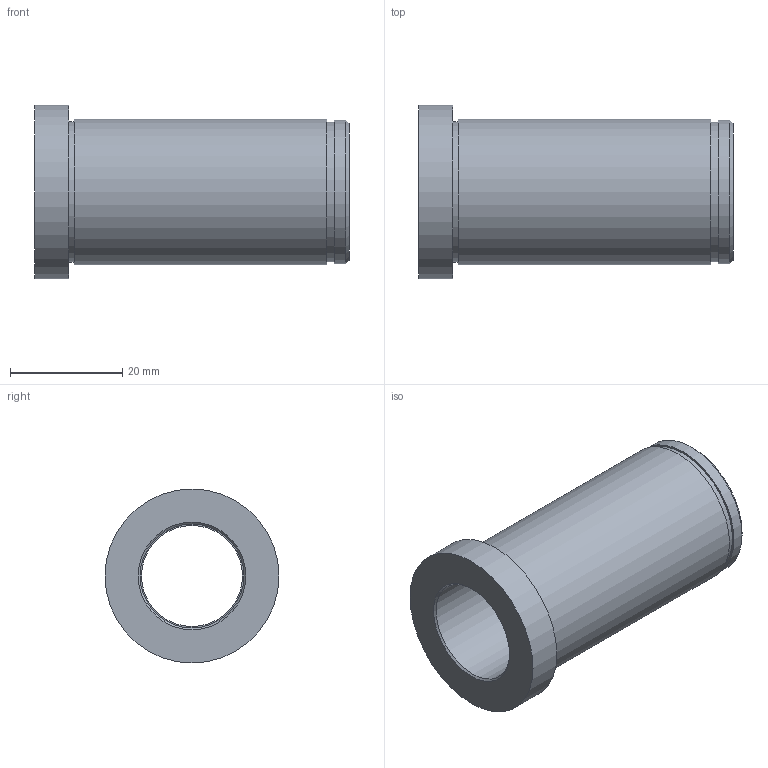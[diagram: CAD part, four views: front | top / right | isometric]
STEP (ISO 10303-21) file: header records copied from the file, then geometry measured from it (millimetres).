
FILE_DESCRIPTION(/* description */ ('Impex Ready, www.impex-ready.pl'),/* implementation_level */ '2;1');
FILE_NAME(/* name */ 'C:\Users\VIKKY\Nextcloud\SM\projekt 10 - części na stronę internetową\Pliki_3D_new\307 Tuleje BG05\307 BG05_STEP\BG05.018056.ipt.step',/* time_stamp */ '2021-12-21T17:21:40+01:00',/* author */ ('SM'),/* organization */ (''),/* preprocessor_version */ 'ST-DEVELOPER v18.1',/* originating_system */ 'Autodesk Inventor 2021',/* authorisation */ '');
FILE_SCHEMA (('AUTOMOTIVE_DESIGN { 1 0 10303 214 3 1 1 }'));
Length unit declared in the file: millimetre
Products named in the file (1): BG05.018056
Bounding box: 56 x 31 x 31 mm (x, y, z)
Volume: 16431.6 mm3; surface area: 8932.7 mm2
Topology: 1 solids, 1 shells, 17 faces, 30 edges, 20 vertices
Faces by surface type: plane 7, cylinder 7, cone 3
Full cylindrical faces by diameter (mm): 18 x1, 18.5 x1, 24.9 x1, 25 x1, 25.6 x1, 26 x1, 31 x1
Entity records: 504 total; most frequent: DIRECTION 86, CARTESIAN_POINT 68, ORIENTED_EDGE 60, AXIS2_PLACEMENT_3D 38, EDGE_CURVE 30, EDGE_LOOP 24, CIRCLE 20, VERTEX_POINT 20
